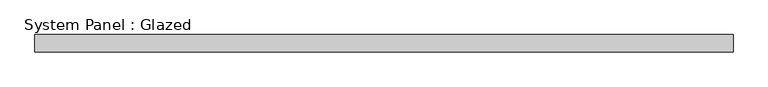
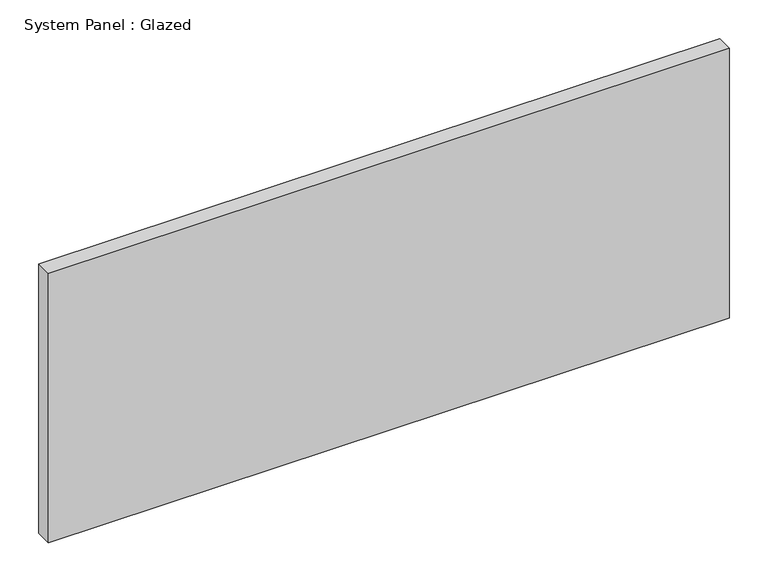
"""IFC4 building model written with IfcOpenShell, lengths in millimetres: plate geometry, System Panel : Glazed."""

from ifc_helpers import new_model, si_unit, origin, origin_with_axes, place, context, project, spatial, polyline, outline, extrude, source, transform, mapped, element, save


def system_panel_glazed_6d87a925(model_context):
    return source(origin(), model_context, "Body", "SweptSolid", [
        extrude(outline(polyline([(507.5, -12.5), (-507.5, -12.5), (-507.5, 12.5), (507.5, 12.5), (507.5, -12.5)])), origin_with_axes(), (0.0, 0.0, 1.0), 425.0),
    ])


if __name__ == "__main__":
    model = new_model("IFC4")
    model_context = context("Model", 3, world=origin())
    ifc_project = project(units=[si_unit("LENGTHUNIT", "METRE", prefix="MILLI")], contexts=[model_context])
    site = spatial("IfcSite", under=ifc_project)
    building = spatial("IfcBuilding", under=site)
    placement = place(None, origin())
    system_panel_glazed_shape = system_panel_glazed_6d87a925(model_context)
    element("IfcPlate", 1, ObjectType="System Panel : Glazed", at=placement, inside=building, context=model_context, shape_type="MappedRepresentation", body=[
        mapped(system_panel_glazed_shape, transform((0.0, 0.0, 0.0), x_axis=(1.0, 0.0, 0.0), y_axis=(0.0, 1.0, 0.0), z_axis=(0.0, 0.0, 1.0))),
    ])
    save(model, "model.ifc")
